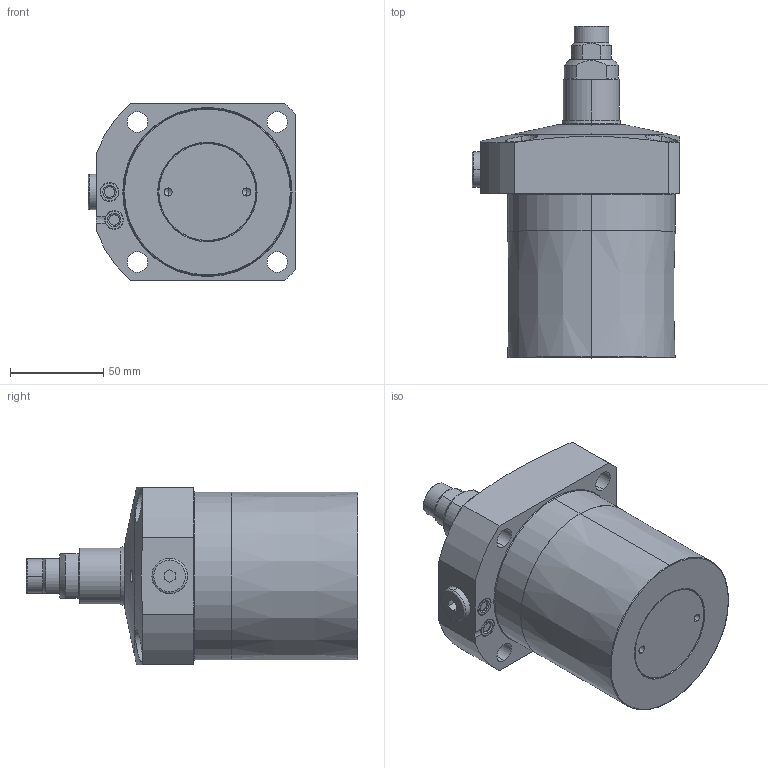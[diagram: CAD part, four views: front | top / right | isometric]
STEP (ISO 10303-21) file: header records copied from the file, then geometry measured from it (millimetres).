
FILE_DESCRIPTION(/* description */ (''),/* implementation_level */ '2;1');
FILE_NAME(/* name */ 'KFSS90-M.stp',/* time_stamp */ '2026-02-06T10:15:54+08:00',/* author */ (''),/* organization */ (''),/* preprocessor_version */ 'ST-DEVELOPER v16.7',/* originating_system */ 'SIEMENS PLM Software NX 12.0',/* authorisation */ '');
FILE_SCHEMA (('AUTOMOTIVE_DESIGN { 1 0 10303 214 3 1 1 1 }'));
Length unit declared in the file: millimetre
Products named in the file (10): XLC-M16SP_pad; XLC-M16SP_pin; XLC-M16SP_contactbolt; XLC-M16_o-ring; KFSS90-M-04; KFSS90-M-05-P7; KFSS90-M-01; KFSS90-M-02; KFSS90-M-03; LC0903-CxM-E_step
Assembly tree (10 placements, depth 3):
  LC0903-CxM-E_step
    KFSS90-M-02
    KFSS90-M-01
    KFSS90-M-05-P7  x2
    KFSS90-M-04
    KFSS90-M-03
      XLC-M16_o-ring
      XLC-M16SP_contactbolt
      XLC-M16SP_pin
      XLC-M16SP_pad
Bounding box: 111.5 x 178 x 95 mm (x, y, z)
Volume: 870024.2 mm3; surface area: 74262.4 mm2
Topology: 9 solids, 9 shells, 278 faces, 612 edges, 370 vertices
Faces by surface type: cylinder 92, torus 62, cone 59, plane 59, sphere 6
Entity records: 8230 total; most frequent: CARTESIAN_POINT 1847, DIRECTION 1418, ORIENTED_EDGE 1160, AXIS2_PLACEMENT_3D 613, EDGE_CURVE 580, VERTEX_POINT 356, CIRCLE 336, EDGE_LOOP 312
